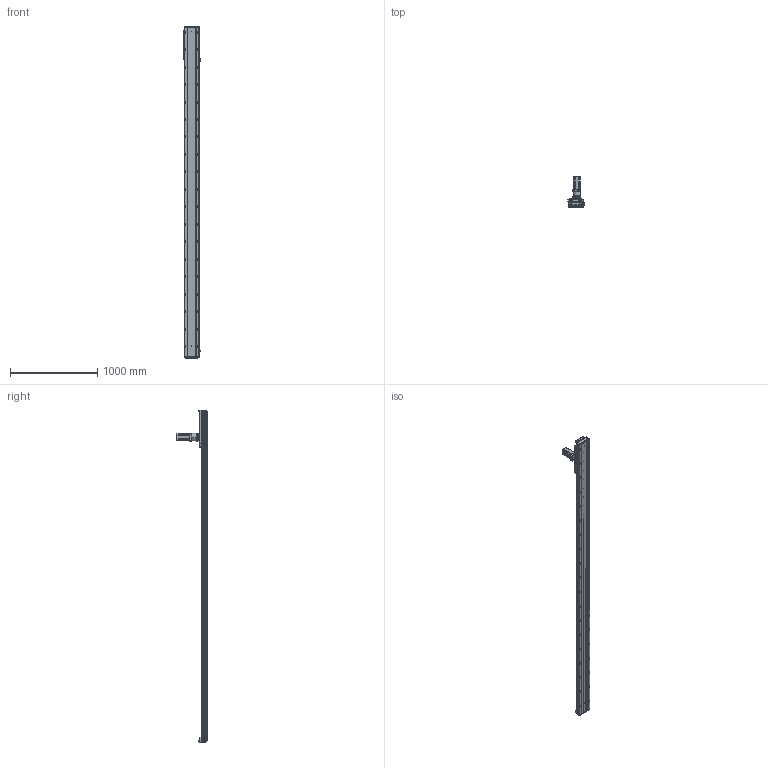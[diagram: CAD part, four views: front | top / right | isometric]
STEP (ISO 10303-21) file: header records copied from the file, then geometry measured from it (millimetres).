
FILE_DESCRIPTION (( 'STEP AP203' ), '1' );
FILE_NAME ('RY170-C-1000-UK.SLDASM_3300.step', '2021-03-03T00:48:41', ( '盈信电脑' ), ( '东莞市道滘镇水果街19号' ), 'SwSTEP 2.0', 'SolidWorks 2012', '' );
FILE_SCHEMA (( 'CONFIG_CONTROL_DESIGN' ));
Products named in the file (13): RY170-喘沭賑輸; RY170-C-1000-UK.SLDASM_3300; 左旋斜齿齿轮_M2_22齿_内孔20; RY170-喘謫萇儂覃誹啣; TF080等撰; RY170-喘沭滅袉蝶輸; 怢湛750W萇儂ㄗ80遺ㄘ; RY170外置感应片(200共用）; RY170綴裔啣ㄗ蜊秶ㄘ; RY170-1000-喘沭耀郪絳寢EGH20CA_3300; 覜茼ん672; RY170-1000齿条模组型材底座_3300; 絳寢賑輸EGH20CA
Assembly tree (22 placements, depth 2):
  RY170-C-1000-UK.SLDASM_3300
    RY170-1000齿条模组型材底座_3300
    絳寢賑輸EGH20CA  x6
    RY170-1000-喘沭耀郪絳寢EGH20CA_3300  x2
    RY170綴裔啣ㄗ蜊秶ㄘ  x2
    覜茼ん672  x3
    RY170外置感应片(200共用）
    RY170-喘謫萇儂覃誹啣
    怢湛750W萇儂ㄗ80遺ㄘ
    RY170-喘沭滅袉蝶輸  x2
    TF080等撰
    左旋斜齿齿轮_M2_22齿_内孔20
    RY170-喘沭賑輸
Bounding box: 188.7 x 343.5 x 3800 mm (x, y, z)
Volume: 18707894.3 mm3; surface area: 4861856.3 mm2
Topology: 24 solids, 24 shells, 5059 faces, 14414 edges, 9171 vertices
Faces by surface type: plane 2333, cylinder 2234, cone 438, bspline 50, torus 4
Entity records: 118392 total; most frequent: CARTESIAN_POINT 29141, ORIENTED_EDGE 18814, DIRECTION 18044, EDGE_CURVE 9407, AXIS2_PLACEMENT_3D 6749, VERTEX_POINT 6113, VECTOR 4546, LINE 4546
